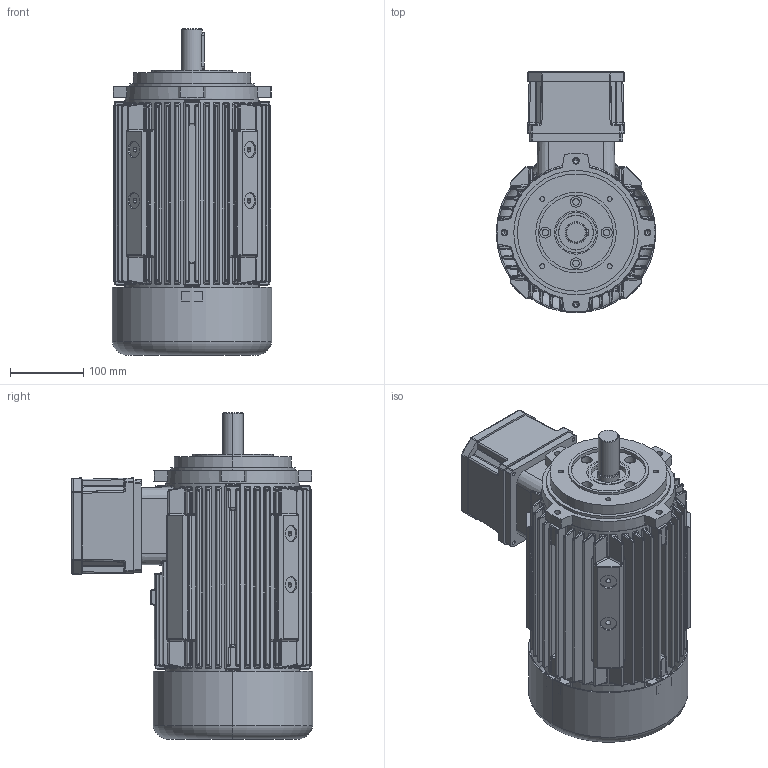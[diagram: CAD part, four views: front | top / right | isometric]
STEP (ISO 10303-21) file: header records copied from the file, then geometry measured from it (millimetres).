
FILE_DESCRIPTION (( 'STEP AP214' ), '1' );
FILE_NAME ('7AT 112 Exd config.STEP', '2018-05-11T10:24:20', ( '' ), ( '' ), 'SwSTEP 2.0', 'SolidWorks 2017', '' );
FILE_SCHEMA (( 'AUTOMOTIVE_DESIGN' ));
Length unit declared in the file: millimetre
Products named in the file (1): 7AT 112 Exd config
Bounding box: 218 x 329.6 x 446 mm (x, y, z)
Volume: 4988525.5 mm3; surface area: 1278343 mm2
Topology: 10 solids, 10 shells, 2963 faces, 7114 edges, 4039 vertices
Faces by surface type: cylinder 1068, bspline 988, plane 538, sphere 158, cone 114, torus 97
Entity records: 146625 total; most frequent: CARTESIAN_POINT 60009, ORIENTED_EDGE 13684, DIRECTION 10919, EDGE_CURVE 6842, AXIS2_PLACEMENT_3D 4358, VERTEX_POINT 4029, EDGE_LOOP 3173, ADVANCED_FACE 2963
